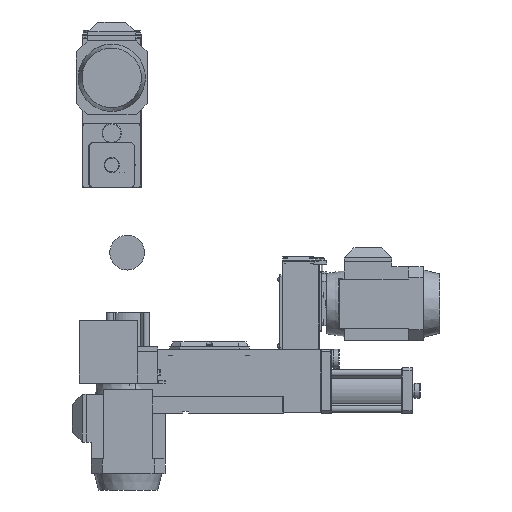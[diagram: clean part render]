
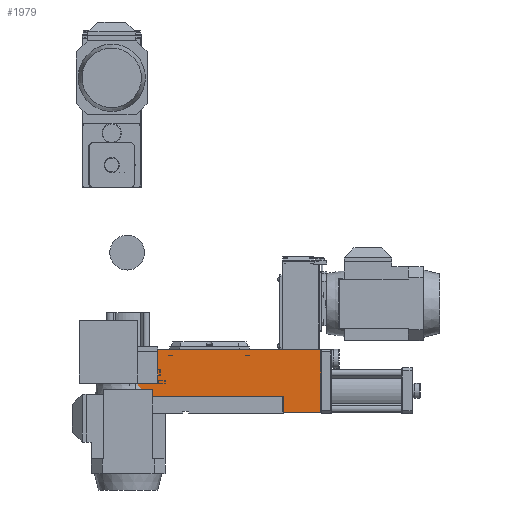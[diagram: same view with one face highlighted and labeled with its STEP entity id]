
A CAD part, left-side view. The second image highlights one B-rep face of the part: STEP entity #1979.
In plain terms, the highlighted planar face has unit normal (-1, 0, 0) as drawn and (0, 1, 0) by its records, which use the part's own axes.
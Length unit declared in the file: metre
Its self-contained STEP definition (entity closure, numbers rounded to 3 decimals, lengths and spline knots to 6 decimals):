
#1979 = ADVANCED_FACE( '', ( #2809 ), #2810, .T. );
#2809 = FACE_OUTER_BOUND( '', #4720, .T. );
#2810 = PLANE( '', #4721 );
#4720 = EDGE_LOOP( '', ( #7427, #7428, #7429, #7430, #7431, #7432 ) );
#4721 = AXIS2_PLACEMENT_3D( '', #7433, #7434, #7435 );
#7427 = ORIENTED_EDGE( '', *, *, #13101, .F. );
#7428 = ORIENTED_EDGE( '', *, *, #13102, .T. );
#7429 = ORIENTED_EDGE( '', *, *, #13103, .T. );
#7430 = ORIENTED_EDGE( '', *, *, #13100, .F. );
#7431 = ORIENTED_EDGE( '', *, *, #13098, .F. );
#7432 = ORIENTED_EDGE( '', *, *, #13104, .F. );
#7433 = CARTESIAN_POINT( '', ( -0.347, 0.098556, 0. ) );
#7434 = DIRECTION( '', ( 0., 1., 0. ) );
#7435 = DIRECTION( '', ( 0., 0., 1. ) );
#13098 = EDGE_CURVE( '', #14764, #14756, #14766, .T. );
#13100 = EDGE_CURVE( '', #14756, #14767, #14769, .T. );
#13101 = EDGE_CURVE( '', #14770, #14771, #14772, .T. );
#13102 = EDGE_CURVE( '', #14770, #14773, #14774, .T. );
#13103 = EDGE_CURVE( '', #14773, #14767, #14775, .T. );
#13104 = EDGE_CURVE( '', #14771, #14764, #14776, .T. );
#14756 = VERTEX_POINT( '', #17491 );
#14764 = VERTEX_POINT( '', #17504 );
#14766 = LINE( '', #17507, #17508 );
#14767 = VERTEX_POINT( '', #17509 );
#14769 = LINE( '', #17512, #17513 );
#14770 = VERTEX_POINT( '', #17514 );
#14771 = VERTEX_POINT( '', #17515 );
#14772 = LINE( '', #17516, #17517 );
#14773 = VERTEX_POINT( '', #17518 );
#14774 = LINE( '', #17519, #17520 );
#14775 = LINE( '', #17521, #17522 );
#14776 = LINE( '', #17523, #17524 );
#17491 = CARTESIAN_POINT( '', ( -0.3465, 0.098556, 0.0005 ) );
#17504 = CARTESIAN_POINT( '', ( -0.3465, 0.098556, 0.1265 ) );
#17507 = CARTESIAN_POINT( '', ( -0.3465, 0.098556, 0. ) );
#17508 = VECTOR( '', #22311, 1. );
#17509 = CARTESIAN_POINT( '', ( -0.271, 0.098556, 0.0005 ) );
#17512 = CARTESIAN_POINT( '', ( -0.254, 0.098556, 0.0005 ) );
#17513 = VECTOR( '', #22313, 1. );
#17514 = CARTESIAN_POINT( '', ( 0.0245, 0.098556, 0.032 ) );
#17515 = CARTESIAN_POINT( '', ( 0.0245, 0.098556, 0.1265 ) );
#17516 = CARTESIAN_POINT( '', ( 0.0245, 0.098556, 0. ) );
#17517 = VECTOR( '', #22314, 1. );
#17518 = CARTESIAN_POINT( '', ( -0.271, 0.098556, 0.032 ) );
#17519 = CARTESIAN_POINT( '', ( -0.235, 0.098556, 0.032 ) );
#17520 = VECTOR( '', #22315, 1. );
#17521 = CARTESIAN_POINT( '', ( -0.271, 0.098556, 0. ) );
#17522 = VECTOR( '', #22316, 1. );
#17523 = CARTESIAN_POINT( '', ( -0.254, 0.098556, 0.1265 ) );
#17524 = VECTOR( '', #22317, 1. );
#22311 = DIRECTION( '', ( 0., 0., -1. ) );
#22313 = DIRECTION( '', ( 1., 0., 0. ) );
#22314 = DIRECTION( '', ( 0., 0., 1. ) );
#22315 = DIRECTION( '', ( -1., 0., 0. ) );
#22316 = DIRECTION( '', ( 0., 0., -1. ) );
#22317 = DIRECTION( '', ( -1., 0., 0. ) );
